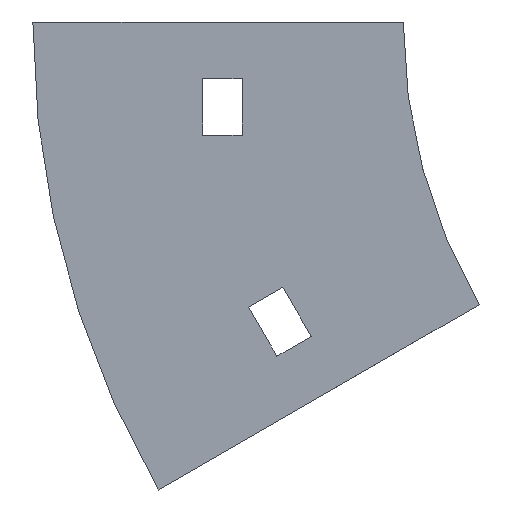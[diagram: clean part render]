
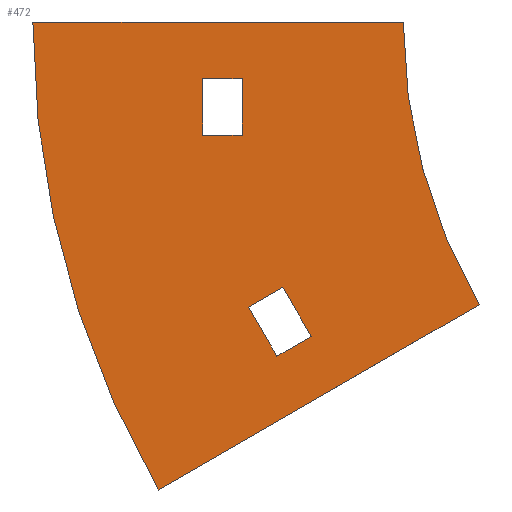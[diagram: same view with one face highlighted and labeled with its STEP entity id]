
A CAD part, left-side view. The second image highlights one B-rep face of the part: STEP entity #472.
In plain terms, the highlighted planar face has unit normal (-1, 0, 0).
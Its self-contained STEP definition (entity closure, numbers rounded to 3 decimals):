
#4 = DIRECTION ( 'NONE',  ( 0., 0., 1. ) ) ;
#23 = DIRECTION ( 'NONE',  ( 0., 0.866, -0.5 ) ) ;
#42 = ORIENTED_EDGE ( 'NONE', *, *, #165, .F. ) ;
#61 = CARTESIAN_POINT ( 'NONE',  ( -32.75, 35.5, -20. ) ) ;
#80 = ORIENTED_EDGE ( 'NONE', *, *, #612, .T. ) ;
#83 = EDGE_CURVE ( 'NONE', #948, #183, #747, .T. ) ;
#92 = CARTESIAN_POINT ( 'NONE',  ( -32.75, 35.5, -20. ) ) ;
#99 = ORIENTED_EDGE ( 'NONE', *, *, #943, .T. ) ;
#104 = DIRECTION ( 'NONE',  ( -1., 0., 0. ) ) ;
#106 = LINE ( 'NONE', #1081, #1123 ) ;
#127 = LINE ( 'NONE', #860, #704 ) ;
#146 = LINE ( 'NONE', #61, #642 ) ;
#149 = CARTESIAN_POINT ( 'NONE',  ( -32.75, 21.284, -46.929 ) ) ;
#153 = EDGE_LOOP ( 'NONE', ( #529, #504, #213, #317 ) ) ;
#165 = EDGE_CURVE ( 'NONE', #563, #948, #350, .T. ) ;
#181 = DIRECTION ( 'NONE',  ( 1., 0., 0. ) ) ;
#183 = VERTEX_POINT ( 'NONE', #649 ) ;
#186 = ORIENTED_EDGE ( 'NONE', *, *, #301, .T. ) ;
#191 = DIRECTION ( 'NONE',  ( 0., 0., 1. ) ) ;
#204 = FACE_BOUND ( 'NONE', #1148, .T. ) ;
#209 = ORIENTED_EDGE ( 'NONE', *, *, #970, .T. ) ;
#213 = ORIENTED_EDGE ( 'NONE', *, *, #687, .F. ) ;
#229 = DIRECTION ( 'NONE',  ( 0., -1., 0. ) ) ;
#268 = LINE ( 'NONE', #836, #386 ) ;
#275 = VECTOR ( 'NONE', #708, 1000. ) ;
#283 = DIRECTION ( 'NONE',  ( 0., 0., 1. ) ) ;
#289 = FACE_OUTER_BOUND ( 'NONE', #153, .T. ) ;
#301 = EDGE_CURVE ( 'NONE', #673, #1022, #106, .T. ) ;
#304 = PLANE ( 'NONE',  #344 ) ;
#317 = ORIENTED_EDGE ( 'NONE', *, *, #735, .F. ) ;
#330 = CIRCLE ( 'NONE', #1068, 100. ) ;
#335 = EDGE_LOOP ( 'NONE', ( #80, #99, #209, #186 ) ) ;
#344 = AXIS2_PLACEMENT_3D ( 'NONE', #997, #362, #283 ) ;
#346 = DIRECTION ( 'NONE',  ( 0., 0.5, 0.866 ) ) ;
#350 = LINE ( 'NONE', #1101, #510 ) ;
#353 = DIRECTION ( 'NONE',  ( 0., 0., 1. ) ) ;
#362 = DIRECTION ( 'NONE',  ( -1., 0., 0. ) ) ;
#363 = CIRCLE ( 'NONE', #667, 165.5 ) ;
#365 = DIRECTION ( 'NONE',  ( 0., 0.866, -0.5 ) ) ;
#377 = CARTESIAN_POINT ( 'NONE',  ( -32.75, 43.327, -82.75 ) ) ;
#385 = DIRECTION ( 'NONE',  ( 0., -0.866, 0.5 ) ) ;
#386 = VECTOR ( 'NONE', #365, 1000. ) ;
#395 = DIRECTION ( 'NONE',  ( 0., -0.5, -0.866 ) ) ;
#400 = DIRECTION ( 'NONE',  ( 0., 1., 0. ) ) ;
#421 = VECTOR ( 'NONE', #395, 1000. ) ;
#456 = VERTEX_POINT ( 'NONE', #377 ) ;
#472 = ADVANCED_FACE ( 'NONE', ( #1109, #289, #204 ), #304, .T. ) ;
#485 = CARTESIAN_POINT ( 'NONE',  ( -32.75, 0., 0. ) ) ;
#504 = ORIENTED_EDGE ( 'NONE', *, *, #644, .F. ) ;
#510 = VECTOR ( 'NONE', #346, 1000. ) ;
#527 = CARTESIAN_POINT ( 'NONE',  ( -32.75, 65.5, 0. ) ) ;
#529 = ORIENTED_EDGE ( 'NONE', *, *, #726, .F. ) ;
#531 = VECTOR ( 'NONE', #229, 1000. ) ;
#554 = CARTESIAN_POINT ( 'NONE',  ( -32.75, 22.346, -59.09 ) ) ;
#563 = VERTEX_POINT ( 'NONE', #576 ) ;
#576 = CARTESIAN_POINT ( 'NONE',  ( -32.75, 16.284, -55.59 ) ) ;
#582 = LINE ( 'NONE', #1034, #531 ) ;
#592 = LINE ( 'NONE', #863, #421 ) ;
#603 = VERTEX_POINT ( 'NONE', #672 ) ;
#612 = EDGE_CURVE ( 'NONE', #1022, #1018, #582, .T. ) ;
#613 = LINE ( 'NONE', #1143, #275 ) ;
#637 = VECTOR ( 'NONE', #23, 1000. ) ;
#642 = VECTOR ( 'NONE', #400, 1000. ) ;
#644 = EDGE_CURVE ( 'NONE', #883, #947, #909, .T. ) ;
#649 = CARTESIAN_POINT ( 'NONE',  ( -32.75, 27.346, -50.429 ) ) ;
#667 = AXIS2_PLACEMENT_3D ( 'NONE', #725, #181, #4 ) ;
#672 = CARTESIAN_POINT ( 'NONE',  ( -32.75, -13.397, -50. ) ) ;
#673 = VERTEX_POINT ( 'NONE', #92 ) ;
#687 = EDGE_CURVE ( 'NONE', #456, #883, #363, .T. ) ;
#695 = VERTEX_POINT ( 'NONE', #554 ) ;
#699 = CARTESIAN_POINT ( 'NONE',  ( -32.75, 28.5, -20. ) ) ;
#704 = VECTOR ( 'NONE', #385, 1000. ) ;
#708 = DIRECTION ( 'NONE',  ( 0., 0., -1. ) ) ;
#725 = CARTESIAN_POINT ( 'NONE',  ( -32.75, -100., 0. ) ) ;
#726 = EDGE_CURVE ( 'NONE', #947, #603, #330, .T. ) ;
#735 = EDGE_CURVE ( 'NONE', #603, #456, #268, .T. ) ;
#747 = LINE ( 'NONE', #932, #637 ) ;
#836 = CARTESIAN_POINT ( 'NONE',  ( -32.75, -13.397, -50. ) ) ;
#860 = CARTESIAN_POINT ( 'NONE',  ( -32.75, 22.346, -59.09 ) ) ;
#863 = CARTESIAN_POINT ( 'NONE',  ( -32.75, 22.346, -59.09 ) ) ;
#872 = ORIENTED_EDGE ( 'NONE', *, *, #873, .F. ) ;
#873 = EDGE_CURVE ( 'NONE', #183, #695, #592, .T. ) ;
#877 = CARTESIAN_POINT ( 'NONE',  ( -32.75, 28.5, -10. ) ) ;
#883 = VERTEX_POINT ( 'NONE', #1039 ) ;
#903 = DIRECTION ( 'NONE',  ( 0., -1., 0. ) ) ;
#909 = LINE ( 'NONE', #527, #1113 ) ;
#925 = CARTESIAN_POINT ( 'NONE',  ( -32.75, -100., 0. ) ) ;
#932 = CARTESIAN_POINT ( 'NONE',  ( -32.75, 27.346, -50.429 ) ) ;
#943 = EDGE_CURVE ( 'NONE', #1018, #1001, #613, .T. ) ;
#947 = VERTEX_POINT ( 'NONE', #485 ) ;
#948 = VERTEX_POINT ( 'NONE', #149 ) ;
#970 = EDGE_CURVE ( 'NONE', #1001, #673, #146, .T. ) ;
#997 = CARTESIAN_POINT ( 'NONE',  ( -32.75, -100., 0. ) ) ;
#1001 = VERTEX_POINT ( 'NONE', #699 ) ;
#1018 = VERTEX_POINT ( 'NONE', #877 ) ;
#1022 = VERTEX_POINT ( 'NONE', #1041 ) ;
#1034 = CARTESIAN_POINT ( 'NONE',  ( -32.75, 35.5, -10. ) ) ;
#1039 = CARTESIAN_POINT ( 'NONE',  ( -32.75, 65.5, 0. ) ) ;
#1041 = CARTESIAN_POINT ( 'NONE',  ( -32.75, 35.5, -10. ) ) ;
#1063 = ORIENTED_EDGE ( 'NONE', *, *, #83, .F. ) ;
#1068 = AXIS2_PLACEMENT_3D ( 'NONE', #925, #104, #353 ) ;
#1081 = CARTESIAN_POINT ( 'NONE',  ( -32.75, 35.5, -10. ) ) ;
#1101 = CARTESIAN_POINT ( 'NONE',  ( -32.75, 16.284, -55.59 ) ) ;
#1109 = FACE_BOUND ( 'NONE', #335, .T. ) ;
#1113 = VECTOR ( 'NONE', #903, 1000. ) ;
#1123 = VECTOR ( 'NONE', #191, 1000. ) ;
#1129 = EDGE_CURVE ( 'NONE', #695, #563, #127, .T. ) ;
#1143 = CARTESIAN_POINT ( 'NONE',  ( -32.75, 28.5, -10. ) ) ;
#1145 = ORIENTED_EDGE ( 'NONE', *, *, #1129, .F. ) ;
#1148 = EDGE_LOOP ( 'NONE', ( #42, #1145, #872, #1063 ) ) ;
